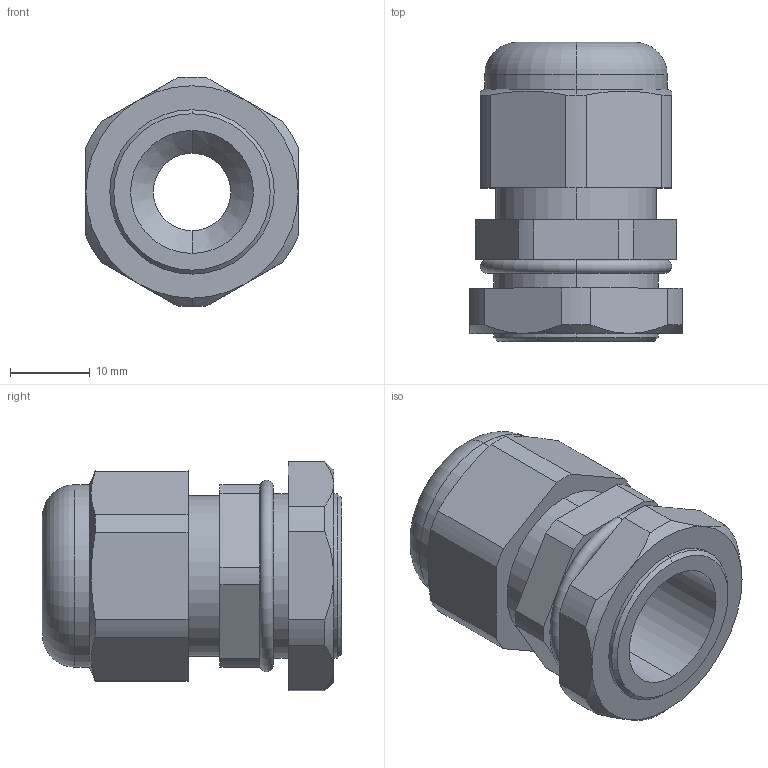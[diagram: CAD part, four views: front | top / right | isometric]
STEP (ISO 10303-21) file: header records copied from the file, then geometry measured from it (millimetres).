
FILE_DESCRIPTION (( 'STEP AP203' ), '1' );
FILE_NAME ('CH-B1_2.STEP', '2018-02-07T14:51:15', ( '' ), ( '' ), 'SwSTEP 2.0', 'SolidWorks 2012', '' );
FILE_SCHEMA (( 'CONFIG_CONTROL_DESIGN' ));
Length unit declared in the file: millimetre
Products named in the file (1): CH-B1_2
Bounding box: 26.6 x 37.5 x 28.79 mm (x, y, z)
Volume: 11596.6 mm3; surface area: 5914.1 mm2
Topology: 1 solids, 1 shells, 78 faces, 189 edges, 118 vertices
Faces by surface type: cylinder 34, plane 25, cone 15, torus 4
Entity records: 2450 total; most frequent: CARTESIAN_POINT 504, DIRECTION 415, ORIENTED_EDGE 378, EDGE_CURVE 189, AXIS2_PLACEMENT_3D 165, VERTEX_POINT 118, CIRCLE 86, VECTOR 85
